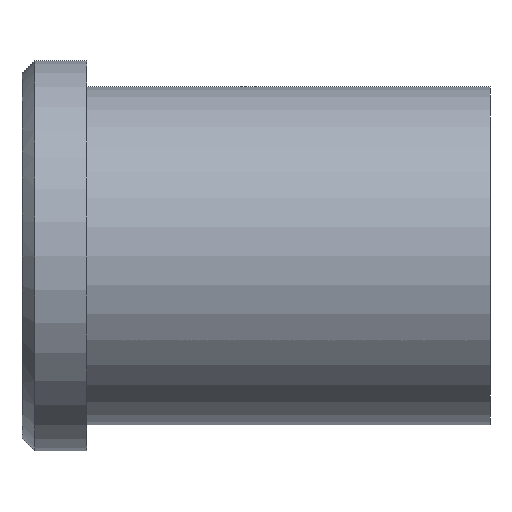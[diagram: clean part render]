
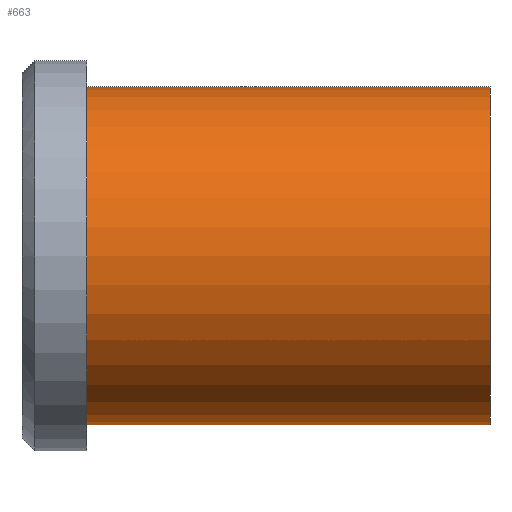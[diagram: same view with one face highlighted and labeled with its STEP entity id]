
A CAD part, front view. The second image highlights one B-rep face of the part: STEP entity #663.
In plain terms, the highlighted cylindrical face has radius 13 mm (diameter 26 mm), a partial arc.
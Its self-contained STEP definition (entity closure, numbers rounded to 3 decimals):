
#501=CARTESIAN_POINT('Vertex',(0.,0.,-13.)) ;
#506=CARTESIAN_POINT('Axis2P3D Location',(0.,0.,0.)) ;
#510=CARTESIAN_POINT('Vertex',(0.,-13.,0.)) ;
#513=CARTESIAN_POINT('Axis2P3D Location',(0.,0.,0.)) ;
#517=CARTESIAN_POINT('Vertex',(0.,0.,13.)) ;
#603=CARTESIAN_POINT('Line Origine',(31.,0.,13.)) ;
#607=CARTESIAN_POINT('Vertex',(31.,0.,13.)) ;
#621=CARTESIAN_POINT('Vertex',(31.,0.,-13.)) ;
#624=CARTESIAN_POINT('Line Origine',(31.,0.,-13.)) ;
#638=CARTESIAN_POINT('Axis2P3D Location',(31.,0.,0.)) ;
#643=CARTESIAN_POINT('Axis2P3D Location',(31.,0.,0.)) ;
#647=CARTESIAN_POINT('Vertex',(31.,-13.,0.)) ;
#650=CARTESIAN_POINT('Axis2P3D Location',(31.,0.,0.)) ;
#507=DIRECTION('Axis2P3D Direction',(1.,0.,-0.)) ;
#514=DIRECTION('Axis2P3D Direction',(1.,0.,-0.)) ;
#604=DIRECTION('Vector Direction',(-1.,0.,0.)) ;
#625=DIRECTION('Vector Direction',(-1.,0.,0.)) ;
#639=DIRECTION('Axis2P3D Direction',(-1.,-0.,-0.)) ;
#640=DIRECTION('Axis2P3D XDirection',(0.,0.,-1.)) ;
#644=DIRECTION('Axis2P3D Direction',(-1.,-0.,-0.)) ;
#651=DIRECTION('Axis2P3D Direction',(-1.,-0.,-0.)) ;
#508=AXIS2_PLACEMENT_3D('Circle Axis2P3D',#506,#507,$) ;
#515=AXIS2_PLACEMENT_3D('Circle Axis2P3D',#513,#514,$) ;
#641=AXIS2_PLACEMENT_3D('Cylinder Axis2P3D',#638,#639,#640) ;
#645=AXIS2_PLACEMENT_3D('Circle Axis2P3D',#643,#644,$) ;
#652=AXIS2_PLACEMENT_3D('Circle Axis2P3D',#650,#651,$) ;
#656=ORIENTED_EDGE('',*,*,#628,.T.) ;
#657=ORIENTED_EDGE('',*,*,#649,.F.) ;
#658=ORIENTED_EDGE('',*,*,#654,.F.) ;
#659=ORIENTED_EDGE('',*,*,#609,.T.) ;
#660=ORIENTED_EDGE('',*,*,#519,.T.) ;
#661=ORIENTED_EDGE('',*,*,#512,.T.) ;
#605=VECTOR('Line Direction',#604,1.) ;
#626=VECTOR('Line Direction',#625,1.) ;
#663=ADVANCED_FACE('353-18X36',(#662),#642,.T.) ;
#509=CIRCLE('generated circle',#508,13.) ;
#516=CIRCLE('generated circle',#515,13.) ;
#646=CIRCLE('generated circle',#645,13.) ;
#653=CIRCLE('generated circle',#652,13.) ;
#642=CYLINDRICAL_SURFACE('generated cylinder',#641,13.) ;
#512=EDGE_CURVE('',#511,#502,#509,.T.) ;
#519=EDGE_CURVE('',#518,#511,#516,.T.) ;
#609=EDGE_CURVE('',#608,#518,#606,.T.) ;
#628=EDGE_CURVE('',#502,#622,#627,.F.) ;
#649=EDGE_CURVE('',#648,#622,#646,.F.) ;
#654=EDGE_CURVE('',#608,#648,#653,.F.) ;
#655=EDGE_LOOP('',(#656,#657,#658,#659,#660,#661)) ;
#662=FACE_OUTER_BOUND('',#655,.T.) ;
#606=LINE('Line',#603,#605) ;
#627=LINE('Line',#624,#626) ;
#502=VERTEX_POINT('',#501) ;
#511=VERTEX_POINT('',#510) ;
#518=VERTEX_POINT('',#517) ;
#608=VERTEX_POINT('',#607) ;
#622=VERTEX_POINT('',#621) ;
#648=VERTEX_POINT('',#647) ;
